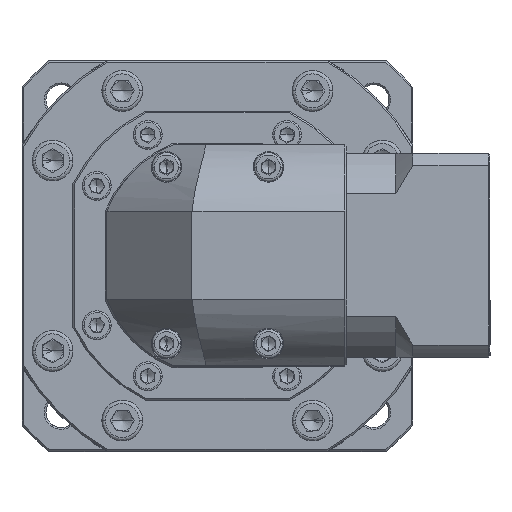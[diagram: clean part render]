
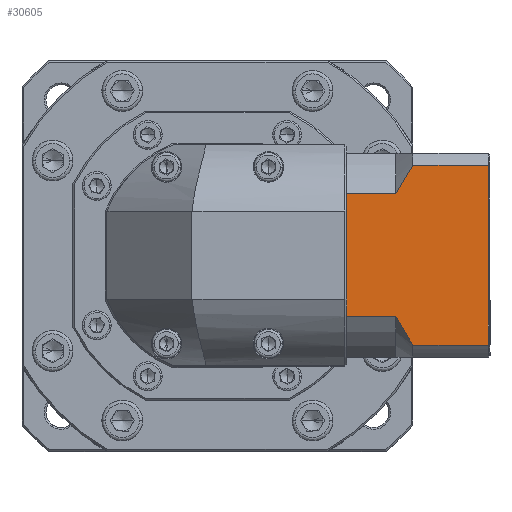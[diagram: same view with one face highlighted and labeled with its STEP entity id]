
A CAD part, top view. The second image highlights one B-rep face of the part: STEP entity #30605.
In plain terms, the highlighted planar face has unit normal (0, 0, 1).
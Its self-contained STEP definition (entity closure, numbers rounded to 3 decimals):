
#964 = ORIENTED_EDGE ( 'NONE', *, *, #57627, .F. ) ;
#1472 = CARTESIAN_POINT ( 'NONE',  ( 90.238, 102.409, -2.166 ) ) ;
#2617 = VECTOR ( 'NONE', #24161, 1000. ) ;
#3661 = VECTOR ( 'NONE', #135829, 1000. ) ;
#3750 = EDGE_CURVE ( 'NONE', #60901, #4276, #12258, .T. ) ;
#4276 = VERTEX_POINT ( 'NONE', #147583 ) ;
#5875 = DIRECTION ( 'NONE',  ( 0., -1., 0. ) ) ;
#9932 = EDGE_CURVE ( 'NONE', #60901, #53598, #51412, .T. ) ;
#10798 = CARTESIAN_POINT ( 'NONE',  ( 90.238, 54.382, -2.166 ) ) ;
#12258 = LINE ( 'NONE', #25734, #88656 ) ;
#12499 = CARTESIAN_POINT ( 'NONE',  ( 104.738, 90.437, -2.166 ) ) ;
#13935 = VECTOR ( 'NONE', #36759, 1000. ) ;
#14628 = VECTOR ( 'NONE', #5875, 1000. ) ;
#21570 = ORIENTED_EDGE ( 'NONE', *, *, #52843, .T. ) ;
#21775 = CARTESIAN_POINT ( 'NONE',  ( 90.238, 102.409, -2.166 ) ) ;
#23820 = CARTESIAN_POINT ( 'NONE',  ( 104.738, 54.382, -2.166 ) ) ;
#24161 = DIRECTION ( 'NONE',  ( 0., 1., 0. ) ) ;
#25445 = VECTOR ( 'NONE', #80227, 1000. ) ;
#25734 = CARTESIAN_POINT ( 'NONE',  ( 104.738, 98.867, -2.166 ) ) ;
#27349 = AXIS2_PLACEMENT_3D ( 'NONE', #139474, #46879, #71232 ) ;
#30605 = ADVANCED_FACE ( 'NONE', ( #123248 ), #104019, .F. ) ;
#31195 = EDGE_CURVE ( 'NONE', #146779, #54660, #130008, .T. ) ;
#32888 = LINE ( 'NONE', #81255, #2617 ) ;
#35899 = LINE ( 'NONE', #84881, #14628 ) ;
#36759 = DIRECTION ( 'NONE',  ( -1., 0., 0. ) ) ;
#37040 = LINE ( 'NONE', #21775, #44150 ) ;
#39648 = CARTESIAN_POINT ( 'NONE',  ( 109.738, 45.952, -2.166 ) ) ;
#44150 = VECTOR ( 'NONE', #134201, 1000. ) ;
#44663 = VERTEX_POINT ( 'NONE', #10798 ) ;
#46879 = DIRECTION ( 'NONE',  ( 0., 0., -1. ) ) ;
#49558 = LINE ( 'NONE', #114830, #13935 ) ;
#51176 = CARTESIAN_POINT ( 'NONE',  ( 131.938, 45.952, -2.166 ) ) ;
#51412 = B_SPLINE_CURVE_WITH_KNOTS ( 'NONE', 3,
 ( #69129, #80068, #92469, #137858, #102354, #12499 ),
 .UNSPECIFIED., .F., .F.,
 ( 4, 2, 4 ),
 ( 0.052, 0.057, 0.062 ),
 .UNSPECIFIED. ) ;
#52843 = EDGE_CURVE ( 'NONE', #64318, #75545, #53612, .T. ) ;
#53598 = VERTEX_POINT ( 'NONE', #144765 ) ;
#53612 = B_SPLINE_CURVE_WITH_KNOTS ( 'NONE', 3,
 ( #61812, #140539, #108067, #72305, #117540, #73771 ),
 .UNSPECIFIED., .F., .F.,
 ( 4, 2, 4 ),
 ( 0.1, 0.104, 0.109 ),
 .UNSPECIFIED. ) ;
#53657 = VECTOR ( 'NONE', #83821, 1000. ) ;
#54660 = VERTEX_POINT ( 'NONE', #96635 ) ;
#55858 = EDGE_LOOP ( 'NONE', ( #964, #134929, #72892, #60640, #131084, #126245, #113683, #81633, #137072, #21570 ) ) ;
#57627 = EDGE_CURVE ( 'NONE', #81486, #75545, #146521, .T. ) ;
#60640 = ORIENTED_EDGE ( 'NONE', *, *, #9932, .T. ) ;
#60901 = VERTEX_POINT ( 'NONE', #94141 ) ;
#61812 = CARTESIAN_POINT ( 'NONE',  ( 104.738, 54.382, -2.166 ) ) ;
#64318 = VERTEX_POINT ( 'NONE', #23820 ) ;
#69129 = CARTESIAN_POINT ( 'NONE',  ( 109.738, 98.867, -2.166 ) ) ;
#71232 = DIRECTION ( 'NONE',  ( 1., 0., 0. ) ) ;
#71483 = EDGE_CURVE ( 'NONE', #54660, #113080, #37040, .T. ) ;
#72305 = CARTESIAN_POINT ( 'NONE',  ( 107.963, 48.694, -2.166 ) ) ;
#72892 = ORIENTED_EDGE ( 'NONE', *, *, #3750, .F. ) ;
#73771 = CARTESIAN_POINT ( 'NONE',  ( 109.738, 45.952, -2.166 ) ) ;
#75545 = VERTEX_POINT ( 'NONE', #39648 ) ;
#80068 = CARTESIAN_POINT ( 'NONE',  ( 108.839, 97.507, -2.166 ) ) ;
#80227 = DIRECTION ( 'NONE',  ( -1., 0., 0. ) ) ;
#81255 = CARTESIAN_POINT ( 'NONE',  ( 131.938, 102.409, -2.166 ) ) ;
#81486 = VERTEX_POINT ( 'NONE', #51176 ) ;
#81633 = ORIENTED_EDGE ( 'NONE', *, *, #106029, .T. ) ;
#83821 = DIRECTION ( 'NONE',  ( 1., 0., 0. ) ) ;
#84881 = CARTESIAN_POINT ( 'NONE',  ( 90.238, 102.409, -2.166 ) ) ;
#88656 = VECTOR ( 'NONE', #105211, 1000. ) ;
#89726 = EDGE_CURVE ( 'NONE', #146779, #53598, #110612, .T. ) ;
#92469 = CARTESIAN_POINT ( 'NONE',  ( 107.965, 96.128, -2.166 ) ) ;
#94141 = CARTESIAN_POINT ( 'NONE',  ( 109.738, 98.867, -2.166 ) ) ;
#96635 = CARTESIAN_POINT ( 'NONE',  ( 90.238, 89.446, -2.166 ) ) ;
#102354 = CARTESIAN_POINT ( 'NONE',  ( 105.486, 91.889, -2.166 ) ) ;
#104019 = PLANE ( 'NONE',  #27349 ) ;
#105211 = DIRECTION ( 'NONE',  ( 1., 0., 0. ) ) ;
#106029 = EDGE_CURVE ( 'NONE', #113080, #44663, #35899, .T. ) ;
#108067 = CARTESIAN_POINT ( 'NONE',  ( 106.289, 51.5, -2.166 ) ) ;
#110612 = LINE ( 'NONE', #118650, #53657 ) ;
#113080 = VERTEX_POINT ( 'NONE', #145211 ) ;
#113683 = ORIENTED_EDGE ( 'NONE', *, *, #71483, .T. ) ;
#114284 = EDGE_CURVE ( 'NONE', #64318, #44663, #49558, .T. ) ;
#114830 = CARTESIAN_POINT ( 'NONE',  ( 104.738, 54.382, -2.166 ) ) ;
#116687 = CARTESIAN_POINT ( 'NONE',  ( 90.238, 90.437, -2.166 ) ) ;
#117540 = CARTESIAN_POINT ( 'NONE',  ( 108.837, 47.315, -2.166 ) ) ;
#118650 = CARTESIAN_POINT ( 'NONE',  ( 104.738, 90.437, -2.166 ) ) ;
#123248 = FACE_OUTER_BOUND ( 'NONE', #55858, .T. ) ;
#126245 = ORIENTED_EDGE ( 'NONE', *, *, #31195, .T. ) ;
#127190 = EDGE_CURVE ( 'NONE', #81486, #4276, #32888, .T. ) ;
#130008 = LINE ( 'NONE', #1472, #3661 ) ;
#131084 = ORIENTED_EDGE ( 'NONE', *, *, #89726, .F. ) ;
#134201 = DIRECTION ( 'NONE',  ( 0., -1., 0. ) ) ;
#134929 = ORIENTED_EDGE ( 'NONE', *, *, #127190, .T. ) ;
#135829 = DIRECTION ( 'NONE',  ( 0., -1., 0. ) ) ;
#136511 = CARTESIAN_POINT ( 'NONE',  ( 104.738, 45.952, -2.166 ) ) ;
#137072 = ORIENTED_EDGE ( 'NONE', *, *, #114284, .F. ) ;
#137858 = CARTESIAN_POINT ( 'NONE',  ( 106.29, 93.321, -2.166 ) ) ;
#139474 = CARTESIAN_POINT ( 'NONE',  ( 132.438, 102.409, -2.166 ) ) ;
#140539 = CARTESIAN_POINT ( 'NONE',  ( 105.488, 52.925, -2.166 ) ) ;
#144765 = CARTESIAN_POINT ( 'NONE',  ( 104.738, 90.437, -2.166 ) ) ;
#145211 = CARTESIAN_POINT ( 'NONE',  ( 90.238, 55.373, -2.166 ) ) ;
#146521 = LINE ( 'NONE', #136511, #25445 ) ;
#146779 = VERTEX_POINT ( 'NONE', #116687 ) ;
#147583 = CARTESIAN_POINT ( 'NONE',  ( 131.938, 98.867, -2.166 ) ) ;
